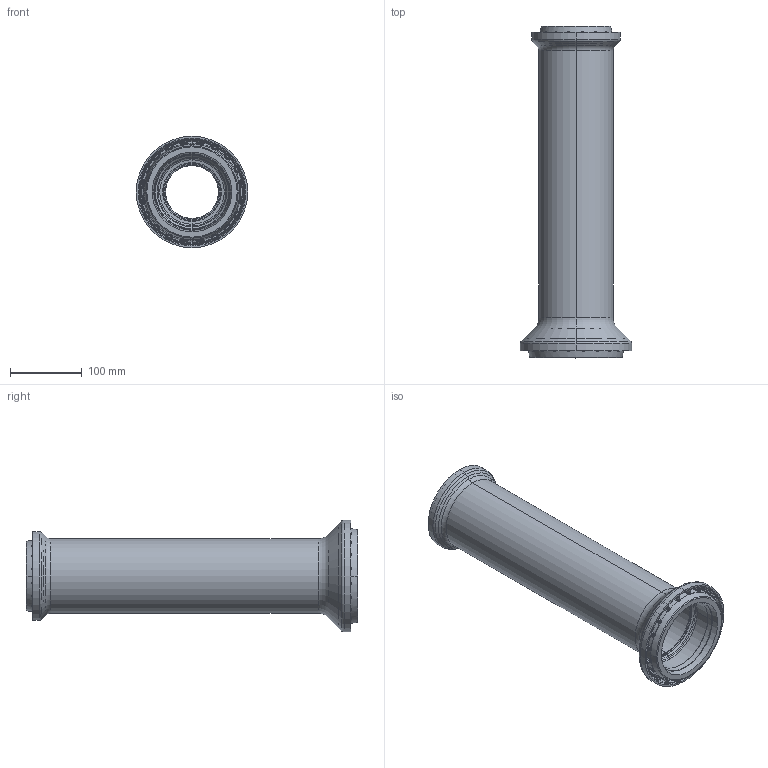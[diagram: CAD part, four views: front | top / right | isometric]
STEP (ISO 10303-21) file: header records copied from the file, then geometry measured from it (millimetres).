
FILE_DESCRIPTION (( 'STEP AP203' ), '1' );
FILE_NAME ('RC.010.01.000.001ﾋ_ﾒ矜 10-1.STEP', '2025-12-22T11:20:05', ( '' ), ( '' ), 'SwSTEP 2.0', 'SolidWorks 2022', '' );
FILE_SCHEMA (( 'CONFIG_CONTROL_DESIGN' ));
Length unit declared in the file: millimetre
Products named in the file (1): RC.010.01.000.001Л_Труба 10-1
Bounding box: 156 x 464 x 156 mm (x, y, z)
Volume: 1731208.8 mm3; surface area: 664136 mm2
Topology: 2 solids, 2 shells, 2750 faces, 6659 edges, 3795 vertices
Faces by surface type: bspline 1184, torus 433, plane 356, sphere 324, cone 276, cylinder 177
Entity records: 106431 total; most frequent: CARTESIAN_POINT 54425, ORIENTED_EDGE 12790, DIRECTION 8726, EDGE_CURVE 6395, AXIS2_PLACEMENT_3D 4124, VERTEX_POINT 3691, EDGE_LOOP 2796, B_SPLINE_CURVE_WITH_KNOTS 2776
